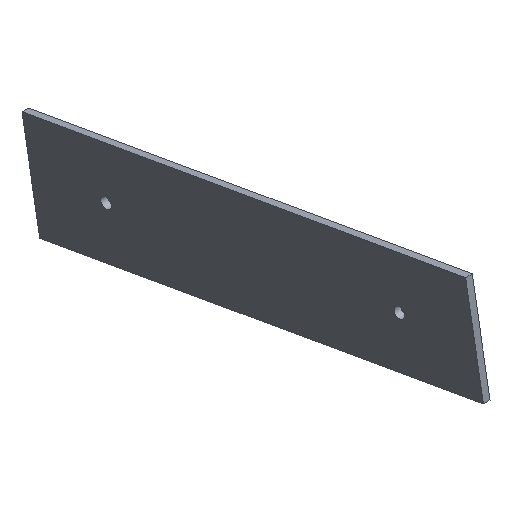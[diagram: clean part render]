
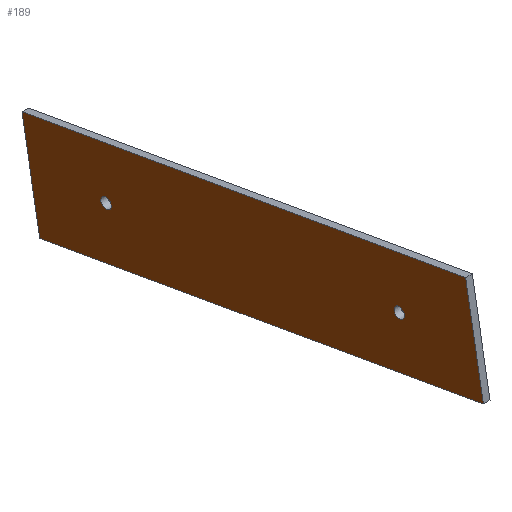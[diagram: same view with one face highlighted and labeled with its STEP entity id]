
A CAD part, isometric view. The second image highlights one B-rep face of the part: STEP entity #189.
In plain terms, the highlighted planar face has unit normal (-1, 0, 0).
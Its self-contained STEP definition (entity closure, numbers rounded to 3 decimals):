
#27=CARTESIAN_POINT('',(-426.5,44.695,1339.887));
#28=VERTEX_POINT('',#27);
#45=CARTESIAN_POINT('',(-426.5,-187.719,1380.868));
#46=VERTEX_POINT('',#45);
#53=CARTESIAN_POINT('',(-426.5,44.695,1339.887));
#54=DIRECTION('',(0.0,-0.985,0.174));
#55=VECTOR('',#54,1.);
#56=LINE('',#53,#55);
#57=EDGE_CURVE('',#28,#46,#56,.T.);
#120=CARTESIAN_POINT('',(-426.5,53.986,1392.576));
#121=VERTEX_POINT('',#120);
#128=CARTESIAN_POINT('',(-426.5,-178.429,1433.556));
#129=VERTEX_POINT('',#128);
#130=CARTESIAN_POINT('',(-426.5,53.986,1392.576));
#131=DIRECTION('',(0.0,-0.985,0.174));
#132=VECTOR('',#131,1.);
#133=LINE('',#130,#132);
#134=EDGE_CURVE('',#121,#129,#133,.T.);
#146=CARTESIAN_POINT('',(-426.5,53.986,1392.576));
#147=DIRECTION('',(-1.0,0.0,0.0));
#148=DIRECTION('',(0.0,-0.174,-0.985));
#149=AXIS2_PLACEMENT_3D('',#146,#147,#148);
#150=PLANE('',#149);
#151=CARTESIAN_POINT('',(-426.5,53.986,1392.576));
#152=DIRECTION('',(0.,-0.174,-0.985));
#153=VECTOR('',#152,1.);
#154=LINE('',#151,#153);
#155=EDGE_CURVE('',#121,#28,#154,.T.);
#156=ORIENTED_EDGE('',*,*,#155,.T.);
#157=ORIENTED_EDGE('',*,*,#57,.T.);
#158=CARTESIAN_POINT('',(-426.5,-178.429,1433.556));
#159=DIRECTION('',(0.,-0.174,-0.985));
#160=VECTOR('',#159,1.);
#161=LINE('',#158,#160);
#162=EDGE_CURVE('',#129,#46,#161,.T.);
#163=ORIENTED_EDGE('',*,*,#162,.F.);
#164=ORIENTED_EDGE('',*,*,#134,.F.);
#165=EDGE_LOOP('',(#156,#157,#163,#164));
#166=FACE_OUTER_BOUND('',#165,.T.);
#167=CARTESIAN_POINT('',(-426.5,10.426,1375.885));
#168=VERTEX_POINT('',#167);
#169=CARTESIAN_POINT('',(-426.5,9.948,1373.177));
#170=DIRECTION('',(-1.0,0.,0.));
#171=DIRECTION('',(0.,0.174,0.985));
#172=AXIS2_PLACEMENT_3D('',#169,#170,#171);
#173=CIRCLE('',#172,2.75);
#174=EDGE_CURVE('',#168,#168,#173,.T.);
#175=ORIENTED_EDGE('',*,*,#174,.F.);
#176=EDGE_LOOP('',(#175));
#177=FACE_BOUND('',#176,.T.);
#178=CARTESIAN_POINT('',(-426.5,-143.204,1402.975));
#179=VERTEX_POINT('',#178);
#180=CARTESIAN_POINT('',(-426.5,-143.682,1400.266));
#181=DIRECTION('',(-1.0,0.,0.));
#182=DIRECTION('',(0.,0.174,0.985));
#183=AXIS2_PLACEMENT_3D('',#180,#181,#182);
#184=CIRCLE('',#183,2.75);
#185=EDGE_CURVE('',#179,#179,#184,.T.);
#186=ORIENTED_EDGE('',*,*,#185,.F.);
#187=EDGE_LOOP('',(#186));
#188=FACE_BOUND('',#187,.T.);
#189=ADVANCED_FACE('',(#166,#177,#188),#150,.T.);
